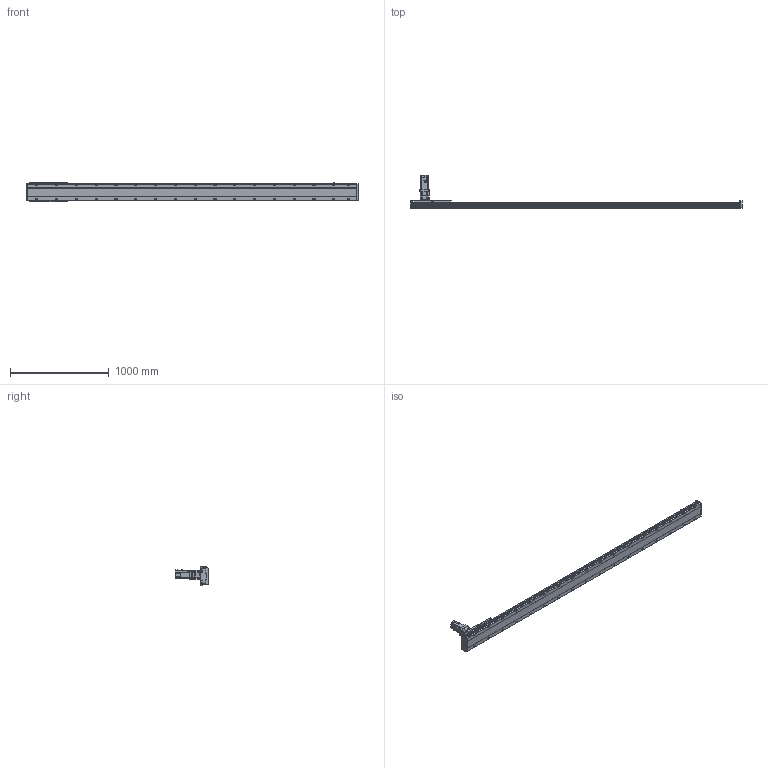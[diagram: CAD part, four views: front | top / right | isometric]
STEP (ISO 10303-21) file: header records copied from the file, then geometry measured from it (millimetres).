
FILE_DESCRIPTION(/* description */ ('STEP AP203'),/* implementation_level */ '2;1');
FILE_NAME(/* name */ 'SHS17A-L13-S2900-BC-T75-C1-N(0)',/* time_stamp */ '2023-03-27T08:58:24+02:00',/* author */ ('License CC BY-ND 4.0'),/* organization */ ('CADENAS'),/* preprocessor_version */ 'ST-DEVELOPER v19.3',/* originating_system */ 'PARTsolutions',/* authorisation */ ' ');
FILE_SCHEMA (('CONFIG_CONTROL_DESIGN'));
Length unit declared in the file: millimetre
Products named in the file (7): SHS17A-L13-S2900-BC-T75-C1-N(0); PSC140-sensor; SHS17A-S2900(0)_body2; T75-p1; SHS17A-S2900_body3; SHS17A-S2900-C1(0)_slider; SHS17A-S2900-C1(0)_body
Assembly tree (13 placements, depth 2):
  SHS17A-L13-S2900-BC-T75-C1-N(0)
    PSC140-sensor  x3
    SHS17A-S2900(0)_body2  x6
    T75-p1
    SHS17A-S2900_body3
    SHS17A-S2900-C1(0)_slider
    SHS17A-S2900-C1(0)_body
Bounding box: 3354 x 333.8 x 193.4 mm (x, y, z)
Volume: 23606598.1 mm3; surface area: 2730209.5 mm2
Topology: 13 solids, 13 shells, 2200 faces, 5596 edges, 3645 vertices
Faces by surface type: plane 1390, cylinder 719, cone 88, torus 3
Full cylindrical faces by diameter (mm): 2.8 x3, 4.134 x24, 4.5 x2, 4.6 x3, 4.917 x15, 5.5 x48, 6 x7, 6.5 x24, 6.647 x42, 6.8 x9, 8 x3, 8.5 x34, 10 x28, 11 x4, 14 x34, 22 x1, 24 x1, 24.2 x1, 28 x1, 28.2 x1, 28.8 x1, 29.8 x1, 48.542 x1, 68 x1, 70 x1, 78 x1, 80 x2
Entity records: 42766 total; most frequent: CARTESIAN_POINT 8398, DIRECTION 6973, ORIENTED_EDGE 6724, EDGE_CURVE 3362, AXIS2_PLACEMENT_3D 2468, VERTEX_POINT 2365, LINE 2037, VECTOR 2037
